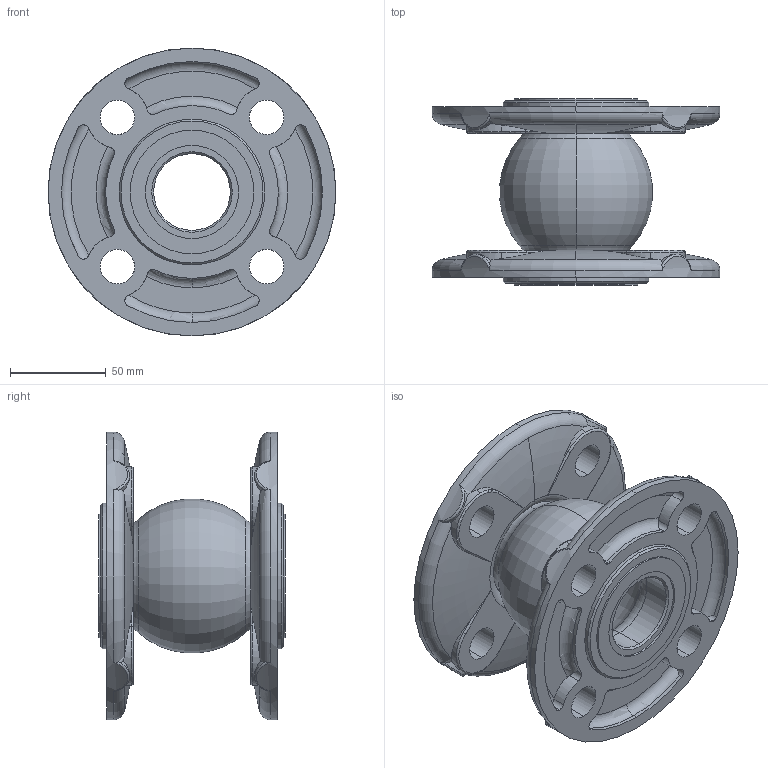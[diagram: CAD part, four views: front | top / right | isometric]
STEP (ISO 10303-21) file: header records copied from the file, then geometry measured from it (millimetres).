
FILE_DESCRIPTION (( 'STEP AP214' ), '1' );
FILE_NAME ('DN40 单球橡胶软接.STEP', '2025-12-26T01:08:05', ( '' ), ( '' ), 'SwSTEP 2.0', 'SolidWorks 2024', '' );
FILE_SCHEMA (( 'AUTOMOTIVE_DESIGN' ));
Length unit declared in the file: millimetre
Products named in the file (3): DN40 单球橡胶; DN40 单球橡胶软接; DN40新款球铁法兰
Assembly tree (3 placements, depth 2):
  DN40 单球橡胶软接
    DN40 单球橡胶
    DN40新款球铁法兰  x2
Bounding box: 150 x 97 x 150 mm (x, y, z)
Volume: 417333.2 mm3; surface area: 138380.3 mm2
Topology: 3 solids, 3 shells, 302 faces, 762 edges, 480 vertices
Faces by surface type: cylinder 164, torus 78, plane 44, cone 8, bspline 8
Entity records: 7500 total; most frequent: CARTESIAN_POINT 2574, DIRECTION 930, ORIENTED_EDGE 874, EDGE_CURVE 437, AXIS2_PLACEMENT_3D 410, VERTEX_POINT 272, CIRCLE 229, EDGE_LOOP 201
